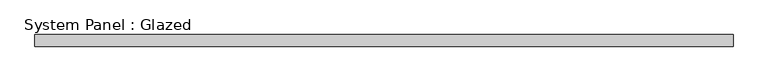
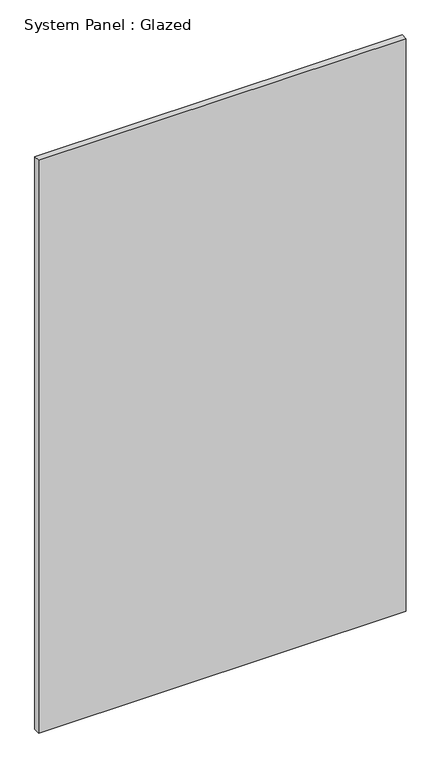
"""IFC4 building model written with IfcOpenShell, lengths in millimetres: plate geometry, System Panel : Glazed."""

from ifc_helpers import new_model, si_unit, origin, origin_with_axes, place, context, project, spatial, polyline, outline, extrude, source, transform, mapped, element, save


def system_panel_glazed_979b1f5c(model_context):
    return source(origin(), model_context, "Body", "SweptSolid", [
        extrude(outline(polyline([(726.123828, -49.5), (-726.123828, -49.5), (-726.123828, -24.5), (726.123828, -24.5), (726.123828, -49.5)])), origin_with_axes(), (0.0, 0.0, 1.0), 2390.0),
    ])


if __name__ == "__main__":
    model = new_model("IFC4")
    model_context = context("Model", 3, world=origin())
    ifc_project = project(units=[si_unit("LENGTHUNIT", "METRE", prefix="MILLI")], contexts=[model_context])
    site = spatial("IfcSite", under=ifc_project)
    building = spatial("IfcBuilding", under=site)
    placement = place(None, origin())
    system_panel_glazed_shape = system_panel_glazed_979b1f5c(model_context)
    element("IfcPlate", 1, ObjectType="System Panel : Glazed", at=placement, inside=building, context=model_context, shape_type="MappedRepresentation", body=[
        mapped(system_panel_glazed_shape, transform((0.0, 0.0, 0.0), x_axis=(1.0, 0.0, 0.0), y_axis=(0.0, 1.0, 0.0), z_axis=(0.0, 0.0, 1.0))),
    ])
    save(model, "model.ifc")
